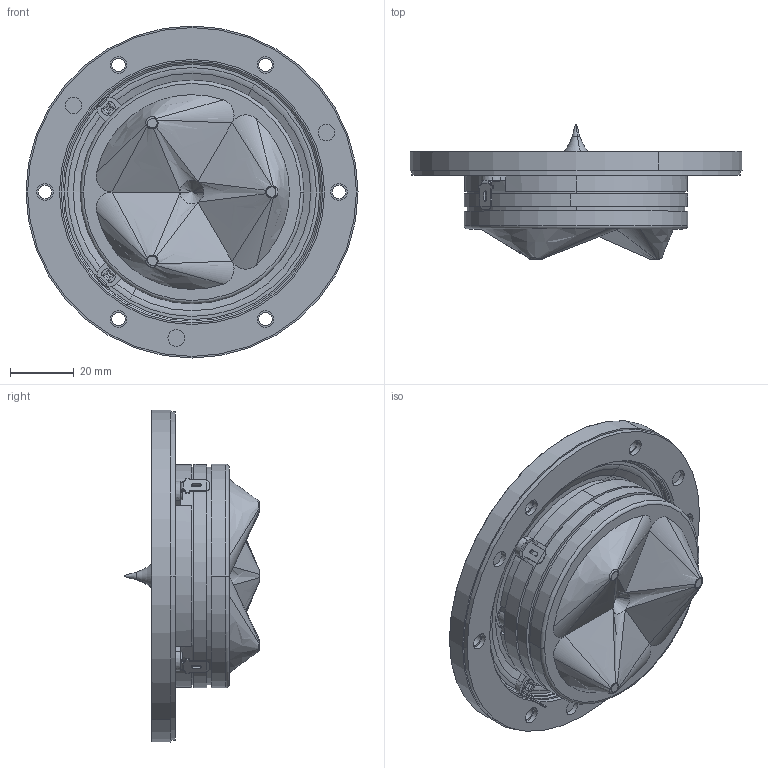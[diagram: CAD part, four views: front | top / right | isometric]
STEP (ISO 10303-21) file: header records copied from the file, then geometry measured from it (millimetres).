
FILE_DESCRIPTION (( 'STEP AP214' ), '1' );
FILE_NAME ('R2904-700000.STEP', '2020-11-24T08:46:26', ( '' ), ( '' ), 'SwSTEP 2.0', 'SolidWorks 2019', '' );
FILE_SCHEMA (( 'AUTOMOTIVE_DESIGN' ));
Length unit declared in the file: millimetre
Products named in the file (1): R2904-700000
Bounding box: 104 x 42.21 x 104 mm (x, y, z)
Volume: 113525.9 mm3; surface area: 34557.2 mm2
Topology: 1 solids, 4 shells, 426 faces, 1086 edges, 702 vertices
Faces by surface type: cylinder 164, plane 142, bspline 54, torus 30, cone 28, sphere 8
Entity records: 19842 total; most frequent: CARTESIAN_POINT 5255, ORIENTED_EDGE 2168, DIRECTION 2039, EDGE_CURVE 1084, AXIS2_PLACEMENT_3D 804, VERTEX_POINT 702, EDGE_LOOP 490, VECTOR 431
